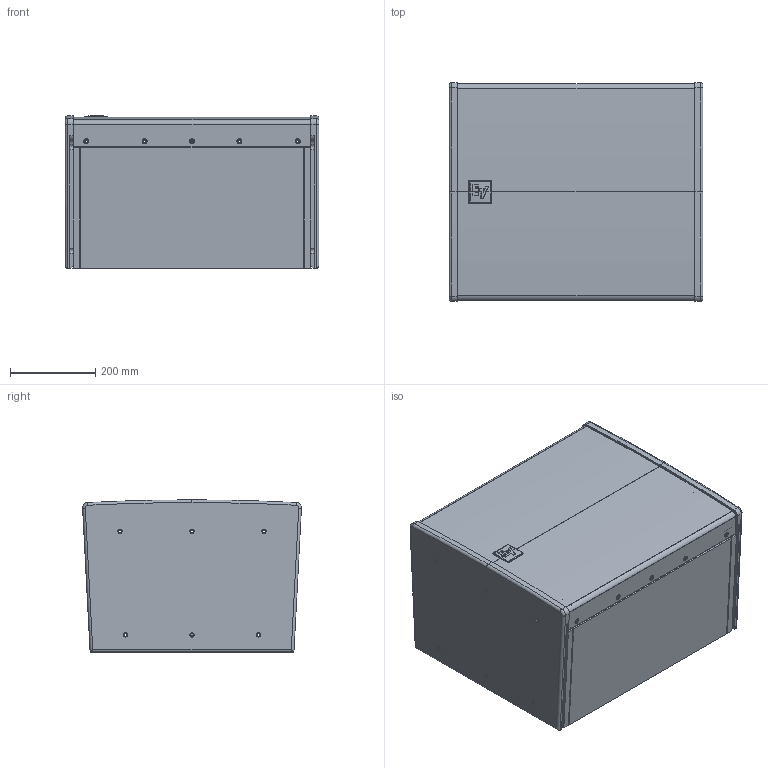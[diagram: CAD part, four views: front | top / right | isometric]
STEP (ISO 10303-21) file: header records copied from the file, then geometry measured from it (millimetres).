
FILE_DESCRIPTION (( 'STEP AP214' ), '1' );
FILE_NAME ('EVA-2082S-126 Btm Elem With Cover plate 3D CAD.STEP', '2023-03-14T05:29:59', ( '' ), ( '' ), 'SwSTEP 2.0', 'SolidWorks 2021', '' );
FILE_SCHEMA (( 'AUTOMOTIVE_DESIGN' ));
Length unit declared in the file: millimetre
Products named in the file (10): EVA-2082S-126 Side Plate; EVA-2082S-126 EV Logo; EVA-2082S-126 Btm Elem With Cover plate 3D CAD; EVA-2082S-126 Back Plate; EVA-2082S-126 Grille; EVA-2082S-126 Top And Bottom Plate; EVA-2082S-126 Cover Plate; EVA-2082S-126 Enclosure Assembly; EVA-2082S-126 Rear Panel
Assembly tree (11 placements, depth 3):
  EVA-2082S-126 Btm Elem With Cover plate 3D CAD
    EVA-2082S-126 Enclosure Assembly
      EVA-2082S-126 Back Plate
      EVA-2082S-126 Side Plate
      EVA-2082S-126 Side Plate
      EVA-2082S-126 Top And Bottom Plate  x2
    EVA-2082S-126 Grille
    EVA-2082S-126 EV Logo
    EVA-2082S-126 Rear Panel
    EVA-2082S-126 Cover Plate  x2
Bounding box: 596.9 x 514.41 x 358.46 mm (x, y, z)
Volume: 22486437.3 mm3; surface area: 3629540 mm2
Topology: 10 solids, 10 shells, 781 faces, 2008 edges, 1273 vertices
Faces by surface type: plane 276, cylinder 236, bspline 129, cone 92, torus 48
Entity records: 25332 total; most frequent: CARTESIAN_POINT 8581, ORIENTED_EDGE 3522, DIRECTION 3220, EDGE_CURVE 1761, AXIS2_PLACEMENT_3D 1185, VERTEX_POINT 1116, LINE 850, VECTOR 850
